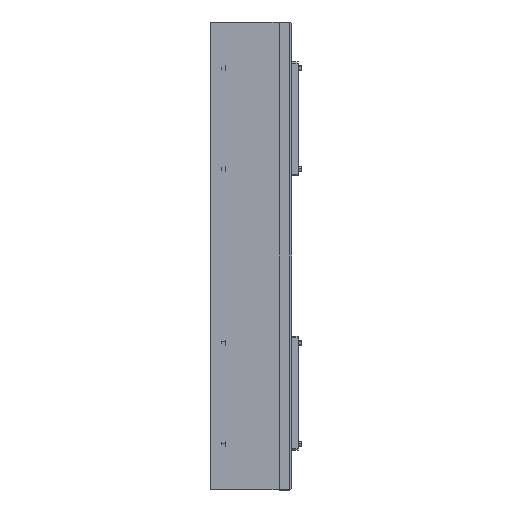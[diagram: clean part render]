
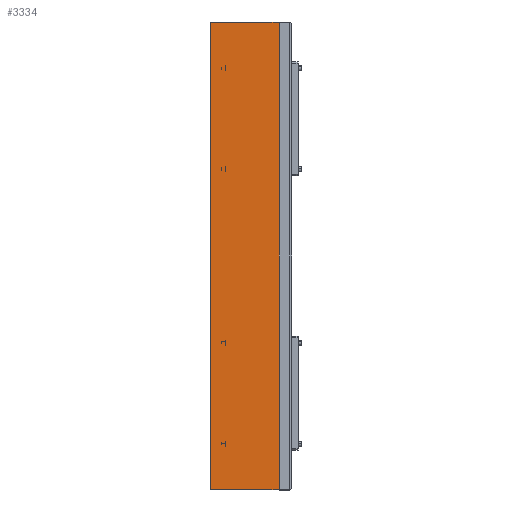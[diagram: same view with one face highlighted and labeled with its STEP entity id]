
A CAD part, left-side view. The second image highlights one B-rep face of the part: STEP entity #3334.
In plain terms, the highlighted planar face has unit normal (-1, 0, 0).
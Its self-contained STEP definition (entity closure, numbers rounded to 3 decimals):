
#5 = LINE ( 'NONE', #276, #934 ) ;
#276 = CARTESIAN_POINT ( 'NONE',  ( -5., 10., -184.75 ) ) ;
#374 = EDGE_CURVE ( 'NONE', #1492, #2979, #5, .T. ) ;
#427 = LINE ( 'NONE', #2728, #3512 ) ;
#689 = EDGE_CURVE ( 'NONE', #2693, #2979, #427, .T. ) ;
#691 = DIRECTION ( 'NONE',  ( 0., -1., 0. ) ) ;
#774 = ORIENTED_EDGE ( 'NONE', *, *, #4022, .F. ) ;
#840 = DIRECTION ( 'NONE',  ( 0., -1., 0. ) ) ;
#934 = VECTOR ( 'NONE', #2116, 1000. ) ;
#1007 = LINE ( 'NONE', #3290, #1493 ) ;
#1154 = CARTESIAN_POINT ( 'NONE',  ( -5., 10., 184.75 ) ) ;
#1483 = DIRECTION ( 'NONE',  ( 1., 0., 0. ) ) ;
#1492 = VERTEX_POINT ( 'NONE', #2586 ) ;
#1493 = VECTOR ( 'NONE', #691, 1000. ) ;
#1723 = ORIENTED_EDGE ( 'NONE', *, *, #689, .F. ) ;
#1815 = DIRECTION ( 'NONE',  ( 0., 0., -1. ) ) ;
#1823 = EDGE_LOOP ( 'NONE', ( #2313, #1723, #774, #2942 ) ) ;
#1953 = CARTESIAN_POINT ( 'NONE',  ( -5., 64.5, 184.75 ) ) ;
#2116 = DIRECTION ( 'NONE',  ( 0., 0., 1. ) ) ;
#2161 = CARTESIAN_POINT ( 'NONE',  ( -5., 64.5, -184.75 ) ) ;
#2249 = DIRECTION ( 'NONE',  ( 0., 0., 1. ) ) ;
#2313 = ORIENTED_EDGE ( 'NONE', *, *, #374, .T. ) ;
#2586 = CARTESIAN_POINT ( 'NONE',  ( -5., 10., -184.75 ) ) ;
#2673 = PLANE ( 'NONE',  #2747 ) ;
#2689 = VECTOR ( 'NONE', #2249, 1000. ) ;
#2693 = VERTEX_POINT ( 'NONE', #1953 ) ;
#2728 = CARTESIAN_POINT ( 'NONE',  ( -5., 64.5, 184.75 ) ) ;
#2747 = AXIS2_PLACEMENT_3D ( 'NONE', #3951, #1483, #1815 ) ;
#2942 = ORIENTED_EDGE ( 'NONE', *, *, #3555, .T. ) ;
#2952 = FACE_OUTER_BOUND ( 'NONE', #1823, .T. ) ;
#2979 = VERTEX_POINT ( 'NONE', #1154 ) ;
#3290 = CARTESIAN_POINT ( 'NONE',  ( -5., 64.5, -184.75 ) ) ;
#3334 = ADVANCED_FACE ( 'NONE', ( #2952 ), #2673, .F. ) ;
#3442 = VERTEX_POINT ( 'NONE', #2161 ) ;
#3512 = VECTOR ( 'NONE', #840, 1000. ) ;
#3555 = EDGE_CURVE ( 'NONE', #3442, #1492, #1007, .T. ) ;
#3557 = CARTESIAN_POINT ( 'NONE',  ( -5., 64.5, -184.75 ) ) ;
#3951 = CARTESIAN_POINT ( 'NONE',  ( -5., 64.5, -184.75 ) ) ;
#3979 = LINE ( 'NONE', #3557, #2689 ) ;
#4022 = EDGE_CURVE ( 'NONE', #3442, #2693, #3979, .T. ) ;
